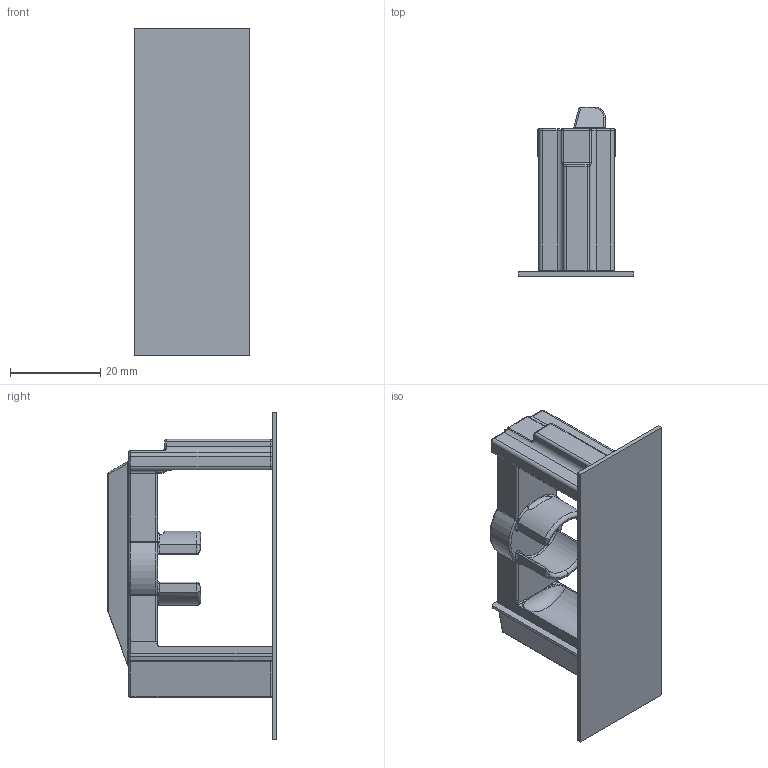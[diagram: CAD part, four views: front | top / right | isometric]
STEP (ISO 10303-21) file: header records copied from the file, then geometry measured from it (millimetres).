
FILE_DESCRIPTION(/* description */ ('STEP AP214'),/* implementation_level */ '2;1');
FILE_NAME(/* name */ 'D:\Ivan''s Printed Mag\Stl\Ivan''s Standard Follower.stp',/* time_stamp */ '2019-01-27T20:56:03-06:00',/* author */ ('johne'),/* organization */ (''),/* preprocessor_version */ 'ST-DEVELOPER v16.13',/* originating_system */ 'Autodesk Inventor 2018',/* authorisation */ '');
FILE_SCHEMA (('AUTOMOTIVE_DESIGN { 1 0 10303 214 3 1 1 }'));
Length unit declared in the file: millimetre
Products named in the file (1): DefDist_Cuomo_AR15_30_Mag_Follower
Bounding box: 25.54 x 37.53 x 72.6 mm (x, y, z)
Volume: 10818.2 mm3; surface area: 10312.8 mm2
Topology: 1 solids, 1 shells, 314 faces, 775 edges, 446 vertices
Faces by surface type: cylinder 118, bspline 67, torus 64, plane 56, sphere 9
Full cylindrical faces by diameter (mm): 2.388 x1
Entity records: 14411 total; most frequent: CARTESIAN_POINT 7348, ORIENTED_EDGE 1506, DIRECTION 1472, EDGE_CURVE 753, AXIS2_PLACEMENT_3D 601, VERTEX_POINT 444, EDGE_LOOP 317, FACE_OUTER_BOUND 312
